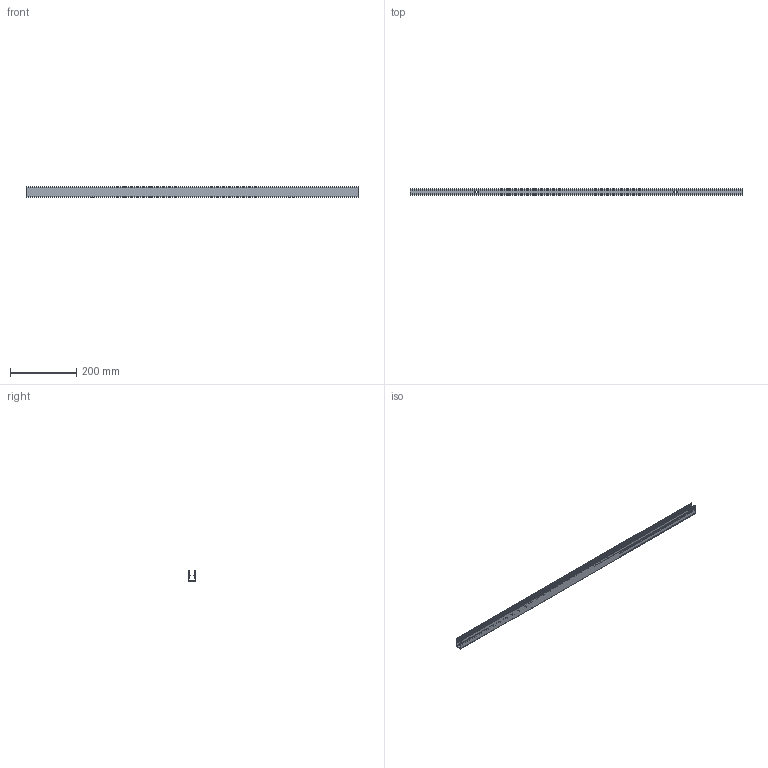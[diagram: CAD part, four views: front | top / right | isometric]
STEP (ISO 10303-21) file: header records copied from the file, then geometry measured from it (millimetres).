
FILE_DESCRIPTION(/* description */ (''),/* implementation_level */ '2;1');
FILE_NAME(/* name */ 'NF_1313_STRAIGHT_PROFILE_CABLE_DUCT_L1000_R02.step',/* time_stamp */ '2026-07-20T17:19:55+02:00',/* author */ (''),/* organization */ (''),/* preprocessor_version */ 'ST-DEVELOPER v20.1',/* originating_system */ 'Autodesk Translation Framework v15.8.0.0',/* authorisation */ '');
FILE_SCHEMA (('AUTOMOTIVE_DESIGN { 1 0 10303 214 3 1 1 }'));
Length unit declared in the file: millimetre
Products named in the file (1): 2026-07-19-14-26-56-725
Bounding box: 1000 x 18.87 x 30.48 mm (x, y, z)
Volume: 156363.2 mm3; surface area: 237986.6 mm2
Topology: 3 solids, 3 shells, 154 faces, 444 edges, 296 vertices
Faces by surface type: plane 74, bspline 58, cylinder 22
Entity records: 6243 total; most frequent: CARTESIAN_POINT 2513, ORIENTED_EDGE 888, DIRECTION 566, EDGE_CURVE 444, VERTEX_POINT 296, LINE 284, VECTOR 284, EDGE_LOOP 158
